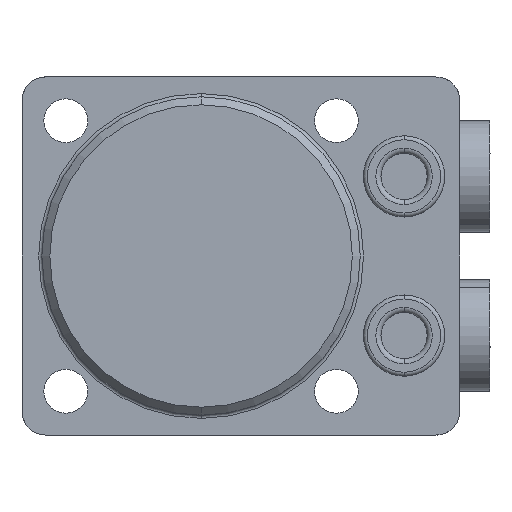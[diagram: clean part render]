
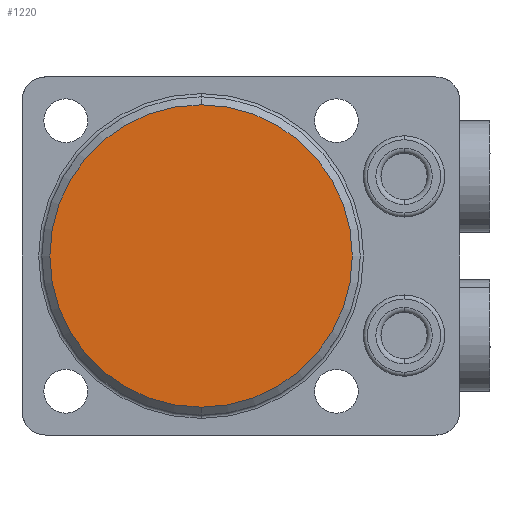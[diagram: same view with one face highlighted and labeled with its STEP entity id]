
A CAD part, front view. The second image highlights one B-rep face of the part: STEP entity #1220.
In plain terms, the highlighted planar face has unit normal (0, -1, 0).
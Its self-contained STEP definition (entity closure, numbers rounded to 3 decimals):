
#654=PLANE('',#3543);
#1220=ADVANCED_FACE('',(#1391),#654,.F.);
#1391=FACE_OUTER_BOUND('',#1570,.T.);
#1570=EDGE_LOOP('',(#2111,#2112));
#2111=ORIENTED_EDGE('',*,*,#2969,.T.);
#2112=ORIENTED_EDGE('',*,*,#2910,.T.);
#2608=VERTEX_POINT('',#5163);
#2609=VERTEX_POINT('',#5164);
#2910=EDGE_CURVE('',#2608,#2609,#3202,.T.);
#2969=EDGE_CURVE('',#2609,#2608,#3223,.T.);
#3202=CIRCLE('',#3510,19.);
#3223=CIRCLE('',#3542,19.);
#3510=AXIS2_PLACEMENT_3D('',#5162,#4225,#4226);
#3542=AXIS2_PLACEMENT_3D('',#5394,#4307,#4308);
#3543=AXIS2_PLACEMENT_3D('',#5395,#4309,#4310);
#4225=DIRECTION('',(0.,-1.,0.));
#4226=DIRECTION('',(0.,0.,1.));
#4307=DIRECTION('',(0.,-1.,0.));
#4308=DIRECTION('',(0.,0.,1.));
#4309=DIRECTION('',(0.,1.,0.));
#4310=DIRECTION('',(0.,0.,-1.));
#5162=CARTESIAN_POINT('',(0.,-21.,0.));
#5163=CARTESIAN_POINT('',(0.,-21.,-19.));
#5164=CARTESIAN_POINT('',(0.,-21.,19.));
#5394=CARTESIAN_POINT('',(0.,-21.,0.));
#5395=CARTESIAN_POINT('',(0.,-21.,0.));
